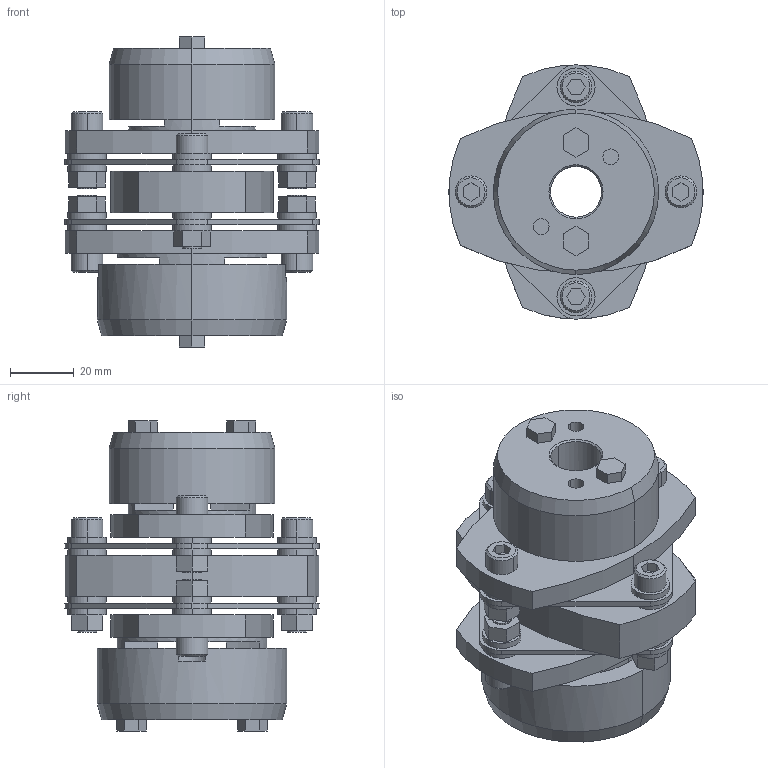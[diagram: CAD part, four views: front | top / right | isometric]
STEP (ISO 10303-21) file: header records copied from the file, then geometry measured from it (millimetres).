
FILE_DESCRIPTION((''),'2;1');
FILE_NAME('LCD-80T7-16×25.stp','2015-10-31T17:23:33',(''),(''),'AutoCAD STEP 2000i','AutoCAD 2000i',', , ');
FILE_SCHEMA(('CONFIG_CONTROL_DESIGN'));
Length unit declared in the file: millimetre
Products named in the file (8): LCD-80T7-17×24; 忣兜1; LC80T7-T024; LC80T7-T022; LC80T7-T019; LC80T7-T017-1; LC80T7-T017; LCD80-ITA
Assembly tree (7 placements, depth 2):
  LCD-80T7-17×24
    忣兜1
    LC80T7-T024
    LC80T7-T022
    LC80T7-T019
    LC80T7-T017-1
    LC80T7-T017
    LCD80-ITA
Bounding box: 80 x 79.95 x 97.5 mm (x, y, z)
Volume: 191914.4 mm3; surface area: 58220.6 mm2
Topology: 1 solids, 1 shells, 310 faces, 756 edges, 496 vertices
Faces by surface type: plane 164, cylinder 122, cone 24
Entity records: 9401 total; most frequent: DIRECTION 1680, CARTESIAN_POINT 1570, ORIENTED_EDGE 1512, EDGE_CURVE 756, AXIS2_PLACEMENT_3D 606, VERTEX_POINT 496, VECTOR 468, LINE 468
